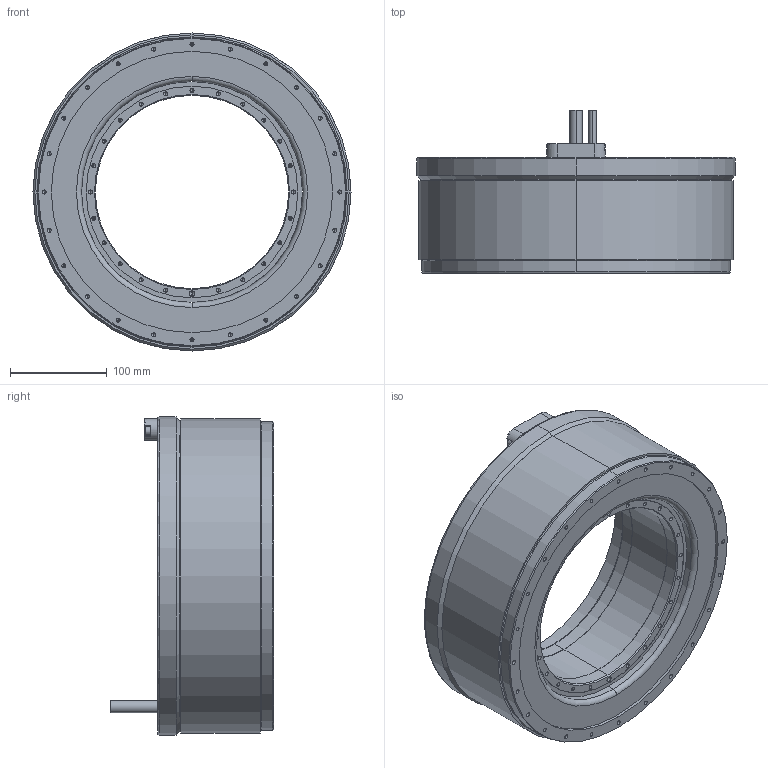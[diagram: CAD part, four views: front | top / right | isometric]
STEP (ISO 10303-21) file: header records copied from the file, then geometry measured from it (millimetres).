
FILE_DESCRIPTION (( 'STEP AP203' ), '1' );
FILE_NAME ('TM-2-78-SB0(J0).STEP', '2023-06-06T01:40:25', ( '' ), ( '' ), 'SwSTEP 2.0', 'SolidWorks 2015', '' );
FILE_SCHEMA (( 'CONFIG_CONTROL_DESIGN' ));
Length unit declared in the file: millimetre
Products named in the file (3): TM-2-78(J0)_Rotor; TM-2-78-SB0(J0)_Stator; TM-2-78-SB0(J0)
Assembly tree (2 placements, depth 2):
  TM-2-78-SB0(J0)
    TM-2-78-SB0(J0)_Stator
    TM-2-78(J0)_Rotor
Bounding box: 329 x 169 x 329 mm (x, y, z)
Volume: 5664123.2 mm3; surface area: 446561.8 mm2
Topology: 2 solids, 2 shells, 510 faces, 1244 edges, 656 vertices
Faces by surface type: cylinder 244, cone 216, plane 44, torus 6
Entity records: 13807 total; most frequent: DIRECTION 2604, CARTESIAN_POINT 2219, ORIENTED_EDGE 2096, EDGE_CURVE 1048, AXIS2_PLACEMENT_3D 1041, VERTEX_POINT 656, EDGE_LOOP 628, CIRCLE 526
